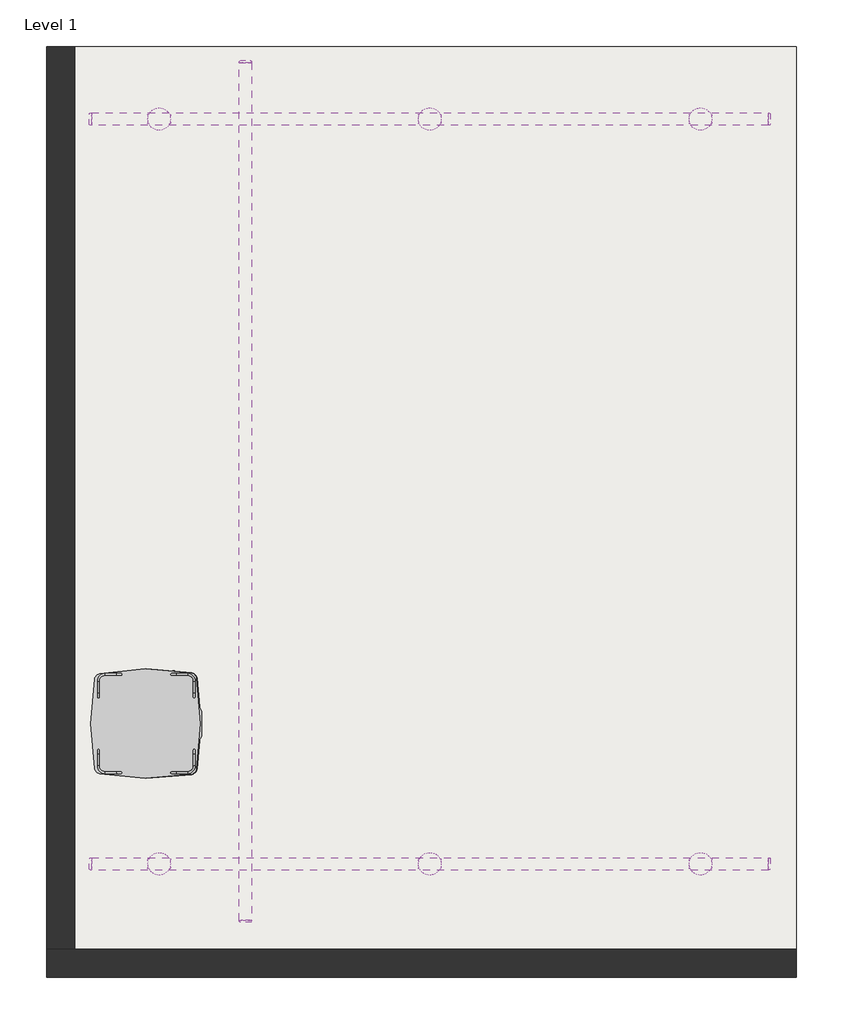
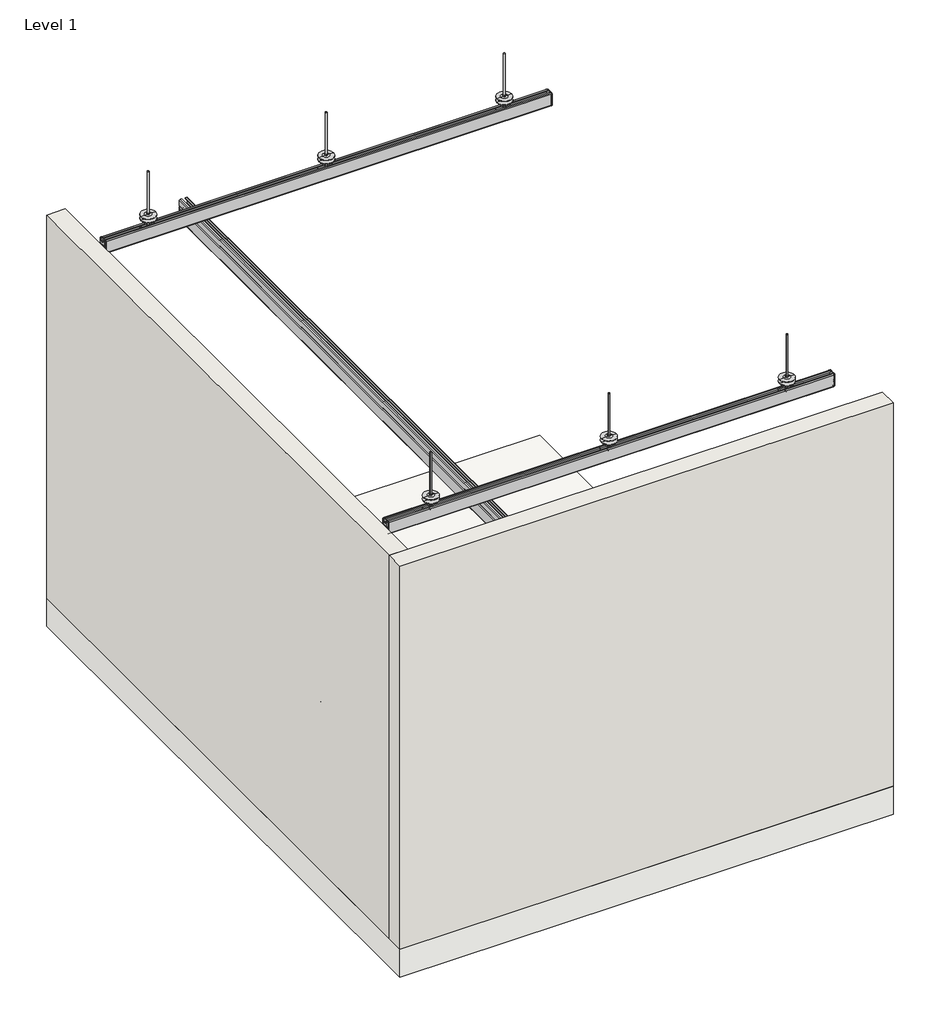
# One storey, incomplete: 16 proxies, 2 walls, 1 slab.
"""IFC4 building model written with IfcOpenShell, lengths in millimetres."""

from ifc_helpers import new_model, si_unit, frame, origin, origin_with_axes, place, context, project, spatial, polyline, outline, extrude, faceted_brep, transform, mapped, element, save
from components import specialty_equipment_e541dc9b, generic_models_6c1ef8ac, specialty_equipment_32bf2d77, specialty_equipment_05e438e0, specialty_equipment_05a7d10e, ah_end_of_track_cap_7309f591

model = new_model("IFC4")

# Units and contexts
model_context = context("Model", 3, world=origin())
ifc_project = project(units=[si_unit("LENGTHUNIT", "METRE", prefix="MILLI")], contexts=[model_context])

# Site, building, storey
site = spatial("IfcSite", under=ifc_project)
building = spatial("IfcBuilding", under=site)
storey = spatial("IfcBuildingStorey", under=building, Name="Level 1", Elevation=0.0)

# Proxies
placement = place(None, origin())
specialty_equipment_shape = specialty_equipment_e541dc9b(model_context)
element("IfcBuildingElementProxy", 1, Name="Kwiktrak Rail Straight- ARJO - Revit2017 - REV0 : 200.12810", ObjectType="Kwiktrak Rail Straight- ARJO - Revit2017 - REV0 : 200.12810", at=placement, inside=storey, context=model_context, shape_type="MappedRepresentation", body=[
    mapped(specialty_equipment_shape, transform((2752.6275905, -2286.3358287, 2607.0), x_axis=(1.0, 0.0, 0.0), y_axis=(0.0, 1.0, 0.0), z_axis=(0.0, 0.0, 1.0))),
])
element("IfcBuildingElementProxy", 2, Name="Kwiktrak Rail Straight- ARJO - Revit2017 - REV0 : 200.12810", ObjectType="Kwiktrak Rail Straight- ARJO - Revit2017 - REV0 : 200.12810", at=placement, inside=storey, context=model_context, shape_type="MappedRepresentation", body=[
    mapped(specialty_equipment_shape, transform((2752.6275905, 1013.6641713, 2607.0), x_axis=(1.0, 0.0, 0.0), y_axis=(0.0, 1.0, 0.0), z_axis=(0.0, 0.0, 1.0))),
])
generic_models_shape = generic_models_6c1ef8ac(model_context)
element("IfcBuildingElementProxy", 3, Name="Medical_All_ARJO_Bedside-Cabinet : Medical_All_ARJO_Bedside-Cabinet", ObjectType="Medical_All_ARJO_Bedside-Cabinet : Medical_All_ARJO_Bedside-Cabinet", at=placement, inside=storey, context=model_context, shape_type="MappedRepresentation", body=[
    mapped(generic_models_shape, transform((1495.6077425, -1664.506656, 0.0), x_axis=(0.0, 1.0, 0.0), y_axis=(-1.0, 0.0, 0.0), z_axis=(0.0, 0.0, 1.0))),
])
specialty_equipment_2_shape = specialty_equipment_32bf2d77(model_context)
element("IfcBuildingElementProxy", 4, Name="Kwiktrak Track Bracket (Bracket & Threaded Rod & Ceiling Plate) - ARJO - Revit2017 - REV0 : AH-Kwiktrak track bracket", ObjectType="Kwiktrak Track Bracket (Bracket & Threaded Rod & Ceiling Plate) - ARJO - Revit2017 - REV0 : AH-Kwiktrak track bracket", at=placement, inside=storey, context=model_context, shape_type="MappedRepresentation", body=[
    mapped(specialty_equipment_2_shape, transform((3952.6275905, 1013.6641713, 2732.0), x_axis=(1.0, 0.0, 0.0), y_axis=(0.0, -1.0, 0.0), z_axis=(0.0, 0.0, -1.0))),
])
element("IfcBuildingElementProxy", 5, Name="Kwiktrak Track Bracket (Bracket & Threaded Rod & Ceiling Plate) - ARJO - Revit2017 - REV0 : AH-Kwiktrak track bracket", ObjectType="Kwiktrak Track Bracket (Bracket & Threaded Rod & Ceiling Plate) - ARJO - Revit2017 - REV0 : AH-Kwiktrak track bracket", at=placement, inside=storey, context=model_context, shape_type="MappedRepresentation", body=[
    mapped(specialty_equipment_2_shape, transform((1552.6275905, 1013.6641713, 2732.0), x_axis=(1.0, 0.0, 0.0), y_axis=(0.0, -1.0, 0.0), z_axis=(0.0, 0.0, -1.0))),
])
element("IfcBuildingElementProxy", 6, Name="Kwiktrak Track Bracket (Bracket & Threaded Rod & Ceiling Plate) - ARJO - Revit2017 - REV0 : AH-Kwiktrak track bracket", ObjectType="Kwiktrak Track Bracket (Bracket & Threaded Rod & Ceiling Plate) - ARJO - Revit2017 - REV0 : AH-Kwiktrak track bracket", at=placement, inside=storey, context=model_context, shape_type="MappedRepresentation", body=[
    mapped(specialty_equipment_2_shape, transform((2752.6275905, 1013.6641713, 2732.0), x_axis=(1.0, 0.0, 0.0), y_axis=(0.0, -1.0, 0.0), z_axis=(0.0, 0.0, -1.0))),
])
specialty_equipment_3_shape = specialty_equipment_05e438e0(model_context)
element("IfcBuildingElementProxy", 7, Name="Kwiktrak Track Bracket (Bracket & Threaded Rod & Ceiling Plate) - ARJO - Revit2017 - REV0 : AH-Kwiktrak track bracket", ObjectType="Kwiktrak Track Bracket (Bracket & Threaded Rod & Ceiling Plate) - ARJO - Revit2017 - REV0 : AH-Kwiktrak track bracket", at=placement, inside=storey, context=model_context, shape_type="MappedRepresentation", body=[
    mapped(specialty_equipment_3_shape, transform((3952.6275905, -2286.3358287, 2732.0), x_axis=(1.0, 0.0, 0.0), y_axis=(0.0, -1.0, 0.0), z_axis=(0.0, 0.0, -1.0))),
])
element("IfcBuildingElementProxy", 8, Name="Kwiktrak Track Bracket (Bracket & Threaded Rod & Ceiling Plate) - ARJO - Revit2017 - REV0 : AH-Kwiktrak track bracket", ObjectType="Kwiktrak Track Bracket (Bracket & Threaded Rod & Ceiling Plate) - ARJO - Revit2017 - REV0 : AH-Kwiktrak track bracket", at=placement, inside=storey, context=model_context, shape_type="MappedRepresentation", body=[
    mapped(specialty_equipment_3_shape, transform((1552.6275905, -2286.3358287, 2732.0), x_axis=(1.0, 0.0, 0.0), y_axis=(0.0, -1.0, 0.0), z_axis=(0.0, 0.0, -1.0))),
])
element("IfcBuildingElementProxy", 9, Name="Kwiktrak Track Bracket (Bracket & Threaded Rod & Ceiling Plate) - ARJO - Revit2017 - REV0 : AH-Kwiktrak track bracket", ObjectType="Kwiktrak Track Bracket (Bracket & Threaded Rod & Ceiling Plate) - ARJO - Revit2017 - REV0 : AH-Kwiktrak track bracket", at=placement, inside=storey, context=model_context, shape_type="MappedRepresentation", body=[
    mapped(specialty_equipment_3_shape, transform((2752.6275905, -2286.3358287, 2732.0), x_axis=(1.0, 0.0, 0.0), y_axis=(0.0, -1.0, 0.0), z_axis=(0.0, 0.0, -1.0))),
])
specialty_equipment_4_shape = specialty_equipment_05a7d10e(model_context)
element("IfcBuildingElementProxy", 10, Name="Kwiktrak Rail Straight- ARJO - Revit2017 - REV0 : 200.12870", ObjectType="Kwiktrak Rail Straight- ARJO - Revit2017 - REV0 : 200.12870", at=placement, inside=storey, context=model_context, shape_type="MappedRepresentation", body=[
    mapped(specialty_equipment_4_shape, transform((1935.1342967, -636.3358287, 2450.865), x_axis=(0.0, 1.0, 0.0), y_axis=(-1.0, 0.0, 0.0), z_axis=(0.0, 0.0, 1.0))),
])
ah_end_of_track_cap_shape = ah_end_of_track_cap_7309f591(model_context)
element("IfcBuildingElementProxy", 11, Name="End Of Track Cap - ARJO - Revit2017 - REV0 : AH-End of track cap", ObjectType="End Of Track Cap - ARJO - Revit2017 - REV0 : AH-End of track cap", at=placement, inside=storey, context=model_context, shape_type="MappedRepresentation", body=[
    mapped(ah_end_of_track_cap_shape, transform((4252.6275905, -2286.3358287, 2607.0), x_axis=(0.0, 1.0, 0.0), y_axis=(-1.0, 0.0, 0.0), z_axis=(0.0, 0.0, 1.0))),
])
element("IfcBuildingElementProxy", 12, Name="End Of Track Cap - ARJO - Revit2017 - REV0 : AH-End of track cap", ObjectType="End Of Track Cap - ARJO - Revit2017 - REV0 : AH-End of track cap", at=placement, inside=storey, context=model_context, shape_type="MappedRepresentation", body=[
    mapped(ah_end_of_track_cap_shape, transform((4252.6275905, 1013.6641713, 2607.0), x_axis=(0.0, 1.0, 0.0), y_axis=(-1.0, 0.0, 0.0), z_axis=(0.0, 0.0, 1.0))),
])
element("IfcBuildingElementProxy", 13, Name="End Of Track Cap - ARJO - Revit2017 - REV0 : AH-End of track cap", ObjectType="End Of Track Cap - ARJO - Revit2017 - REV0 : AH-End of track cap", at=placement, inside=storey, context=model_context, shape_type="MappedRepresentation", body=[
    mapped(ah_end_of_track_cap_shape, transform((1252.6275905, 1013.6641713, 2607.0), x_axis=(0.0, -1.0, 0.0), y_axis=(1.0, 0.0, 0.0), z_axis=(0.0, 0.0, 1.0))),
])
element("IfcBuildingElementProxy", 14, Name="End Of Track Cap - ARJO - Revit2017 - REV0 : AH-End of track cap", ObjectType="End Of Track Cap - ARJO - Revit2017 - REV0 : AH-End of track cap", at=placement, inside=storey, context=model_context, shape_type="MappedRepresentation", body=[
    mapped(ah_end_of_track_cap_shape, transform((1252.6275905, -2286.3358287, 2607.0), x_axis=(0.0, -1.0, 0.0), y_axis=(1.0, 0.0, 0.0), z_axis=(0.0, 0.0, 1.0))),
])
element("IfcBuildingElementProxy", 15, Name="End Of Track Cap - ARJO - Revit2017 - REV0 : AH-End of track cap", ObjectType="End Of Track Cap - ARJO - Revit2017 - REV0 : AH-End of track cap", at=placement, inside=storey, context=model_context, shape_type="MappedRepresentation", body=[
    mapped(ah_end_of_track_cap_shape, transform((1935.1342968, 1263.6641713, 2450.9), x_axis=(-1.0, 0.0, 0.0), y_axis=(0.0, -1.0, 0.0), z_axis=(0.0, 0.0, 1.0))),
])
element("IfcBuildingElementProxy", 16, Name="End Of Track Cap - ARJO - Revit2017 - REV0 : AH-End of track cap", ObjectType="End Of Track Cap - ARJO - Revit2017 - REV0 : AH-End of track cap", at=placement, inside=storey, context=model_context, shape_type="MappedRepresentation", body=[
    mapped(ah_end_of_track_cap_shape, transform((1935.1342967, -2536.3358287, 2450.9), x_axis=(1.0, 0.0, 0.0), y_axis=(0.0, 1.0, 0.0), z_axis=(0.0, 0.0, 1.0))),
])

# Slab
element("IfcSlab", 17, ObjectType="Floor 150mm", at=placement, inside=storey, context=model_context, shape_type="SweptSolid", body=[
    extrude(outline(polyline([(4378.1077425, 1335.493344), (4378.1077425, -2789.506656), (1053.1077425, -2789.506656), (1053.1077425, 1335.493344), (4378.1077425, 1335.493344)])), frame((0.0, 0.0, -200.0), z_axis=(0.0, 0.0, 1.0), x_axis=(1.0, 0.0, 0.0)), (0.0, 0.0, 1.0), 200.0),
])

# Walls
element("IfcWall", 18, ObjectType="Wall 125mm", at=placement, inside=storey, context=model_context, shape_type="Brep", body=[
    faceted_brep([(1053.1077425, -2789.506656, 0.0), (4378.1077425, -2789.506656, 0.0), (4378.1077425, -2789.506656, 2732.0), (1053.1077425, -2789.506656, 2732.0), (1053.1077425, -2664.506656, 0.0), (1053.1077425, -2664.506656, 2732.0), (1178.1077425, -2664.506656, 2732.0), (4378.1077425, -2664.506656, 2732.0), (4378.1077425, -2664.506656, 0.0), (1178.1077425, -2664.506656, 0.0)], [[[0, 1, 2, 3]], [[4, 5, 6, 7, 8, 9]], [[1, 0, 4, 9, 8]], [[2, 1, 8, 7]], [[3, 2, 7, 6, 5]], [[0, 3, 5, 4]]]),
])
element("IfcWall", 19, ObjectType="Wall 125mm", at=placement, inside=storey, context=model_context, shape_type="SweptSolid", body=[
    extrude(outline(polyline([(1178.1077425, 1335.493344), (1178.1077425, -2664.506656), (1053.1077425, -2664.506656), (1053.1077425, 1335.493344), (1178.1077425, 1335.493344)])), origin_with_axes(), (0.0, 0.0, 1.0), 2732.0),
])

save(model, "model.ifc")
